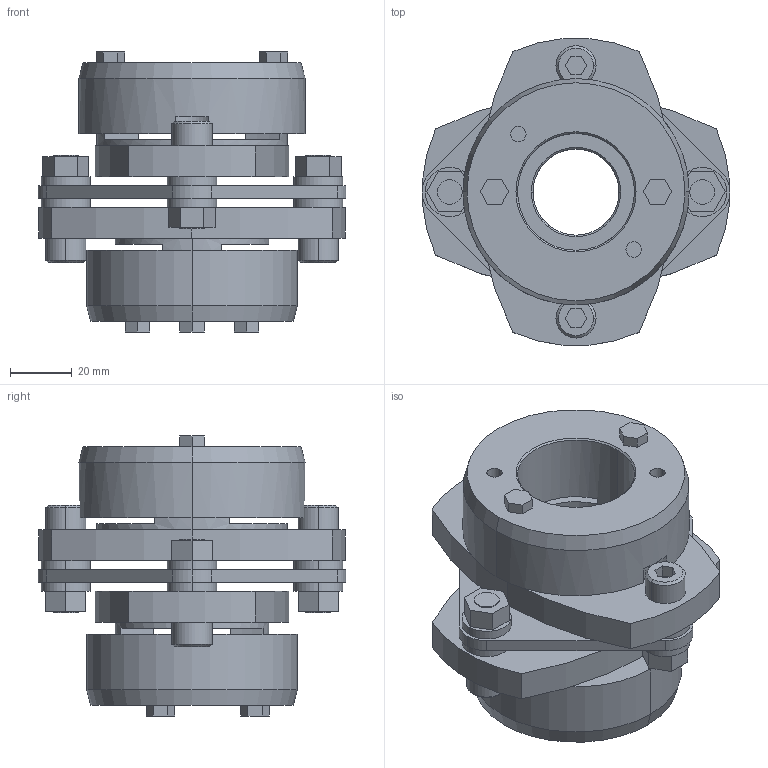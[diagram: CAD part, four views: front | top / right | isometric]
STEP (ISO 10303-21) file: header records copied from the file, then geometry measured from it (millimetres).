
FILE_DESCRIPTION((''),'2;1');
FILE_NAME('LCS-100T7-28×38.stp','2015-11-02T07:50:52',(''),(''),'AutoCAD STEP 2000i','AutoCAD 2000i',', , ');
FILE_SCHEMA(('CONFIG_CONTROL_DESIGN'));
Length unit declared in the file: millimetre
Products named in the file (11): LCS-100T7-28×38; 忣兜1; LC100T7-T028-1; LC100T7-T038; LC100T7-T035; LC100T7-T030; LC100T7-T025-1; LC100T7-T025; LC100T7-T022-1; LC100T7-T022; LCS100-ITA
Assembly tree (10 placements, depth 2):
  LCS-100T7-28×38
    忣兜1
    LC100T7-T028-1
    LC100T7-T038
    LC100T7-T035
    LC100T7-T030
    LC100T7-T025-1
    LC100T7-T025
    LC100T7-T022-1
    LC100T7-T022
    LCS100-ITA
Bounding box: 100 x 99.93 x 91 mm (x, y, z)
Volume: 268226.8 mm3; surface area: 65668 mm2
Topology: 1 solids, 1 shells, 229 faces, 562 edges, 368 vertices
Faces by surface type: plane 127, cylinder 82, cone 20
Entity records: 7051 total; most frequent: DIRECTION 1246, CARTESIAN_POINT 1170, ORIENTED_EDGE 1124, EDGE_CURVE 562, AXIS2_PLACEMENT_3D 444, VERTEX_POINT 368, VECTOR 358, LINE 358
